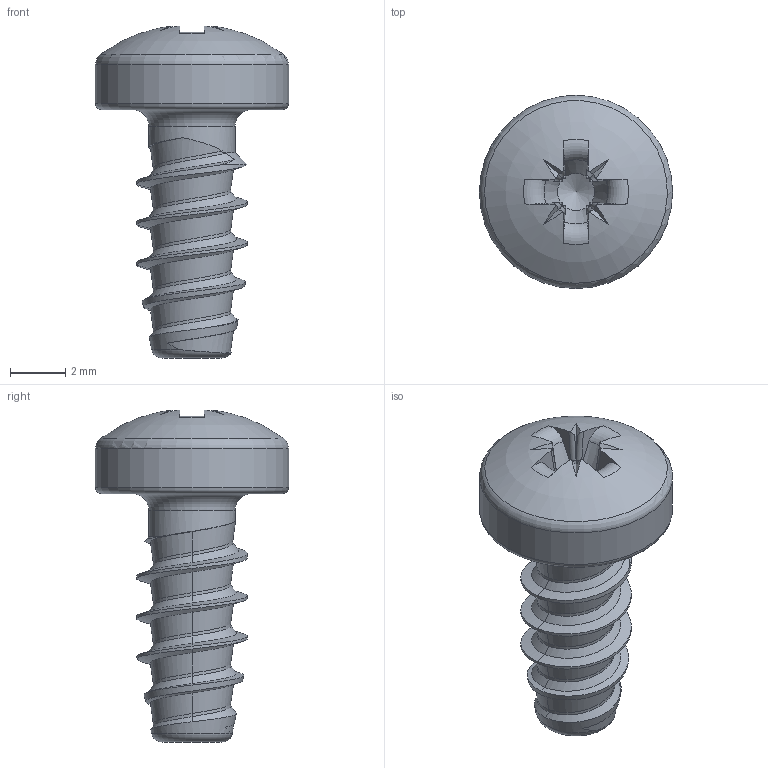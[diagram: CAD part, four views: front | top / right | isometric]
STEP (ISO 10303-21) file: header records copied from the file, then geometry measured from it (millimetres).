
FILE_DESCRIPTION(/* description */ (''),/* implementation_level */ '2;1');
FILE_NAME(/* name */ 'KN6032-STSplus-40x9-Z2.step',/* time_stamp */ '2017-10-10T15:57:43+02:00',/* author */ (''),/* organization */ (''),/* preprocessor_version */ 'ST-DEVELOPER v16',/* originating_system */ 'SIEMENS PLM Software NX 10.0',/* authorisation */ '');
FILE_SCHEMA (('AUTOMOTIVE_DESIGN { 1 0 10303 214 3 1 1 1 }'));
Length unit declared in the file: millimetre
Products named in the file (1): KN6032-STSplus-40x9-Z2
Bounding box: 7 x 7 x 12.03 mm (x, y, z)
Volume: 159.4 mm3; surface area: 241.6 mm2
Topology: 1 solids, 1 shells, 98 faces, 242 edges, 146 vertices
Faces by surface type: plane 42, bspline 29, cylinder 11, torus 8, cone 7, sphere 1
Full cylindrical faces by diameter (mm): 3.13 x1, 7 x1
Entity records: 4428 total; most frequent: CARTESIAN_POINT 2392, ORIENTED_EDGE 456, DIRECTION 335, EDGE_CURVE 228, VERTEX_POINT 141, AXIS2_PLACEMENT_3D 125, EDGE_LOOP 106, ADVANCED_FACE 98
